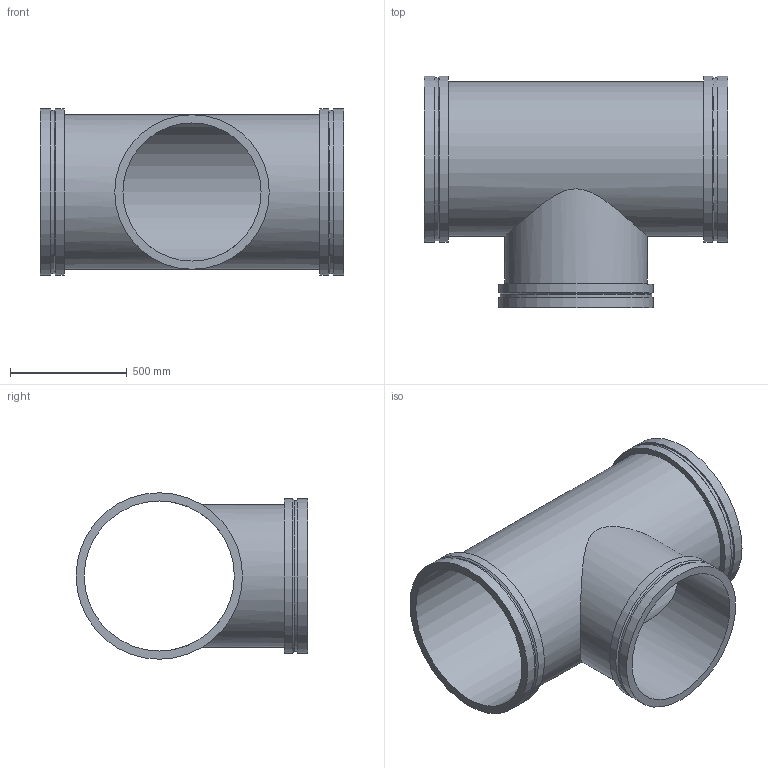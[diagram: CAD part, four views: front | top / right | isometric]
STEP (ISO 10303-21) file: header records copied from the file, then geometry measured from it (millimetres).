
FILE_DESCRIPTION(/* description */ ('VIC REDUCING TEE No W025 VR','CAx-IF Rec.Pracs.---Representation and Presentation of Product Manufacturing Information (PMI)---4.0---2014-10-13'),/* implementation_level */ '2;1');
FILE_NAME(/* name */ 'C:\Users\kkamble\AppData\Roaming\Autodesk\ApplicationPlugins\Back Up\Victaulic_Vic-Ring_Tee Reducing_No W25 VR (AGR)\Victaulic_Vic-Ring_Tee Reducing_No W25 VR (AGR)_26.0x24.0 (650x600).stp',/* time_stamp */ '2020-09-10T11:53:38+05:00',/* author */ ('mchristi'),/* organization */ ('Victaulic'),/* preprocessor_version */ 'ST-DEVELOPER v17.2',/* originating_system */ 'Autodesk Inventor 2019',/* authorisation */ '');
FILE_SCHEMA (('AP242_MANAGED_MODEL_BASED_3D_ENGINEERING_MIM_LF { 1 0 10303 442 1 1 4 }'));
Length unit declared in the file: inch
Products named in the file (1): W25 VR-26.0x24.0
Bounding box: 1295.4 x 990.6 x 711.2 mm (x, y, z)
Volume: 44719407.9 mm3; surface area: 6625662.8 mm2
Topology: 1 solids, 1 shells, 25 faces, 68 edges, 52 vertices
Faces by surface type: cylinder 13, plane 9, cone 3
Full cylindrical faces by diameter (mm): 590.55 x1, 609.6 x1, 641.35 x1, 645.922 x1, 660.4 x3, 696.722 x2, 711.2 x4
Entity records: 1267 total; most frequent: CARTESIAN_POINT 423, DIRECTION 190, ORIENTED_EDGE 136, AXIS2_PLACEMENT_3D 87, EDGE_CURVE 68, VERTEX_POINT 52, CIRCLE 48, EDGE_LOOP 36
